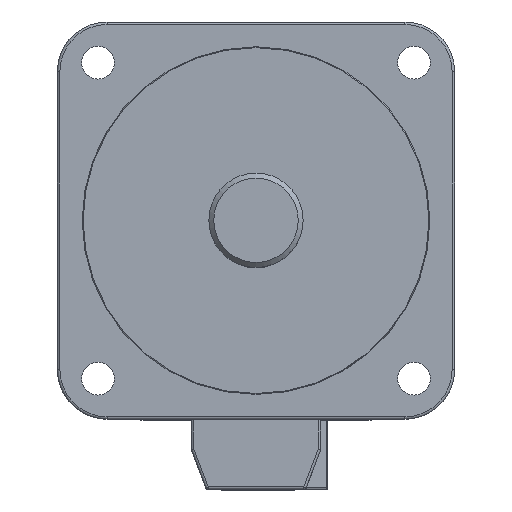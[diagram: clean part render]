
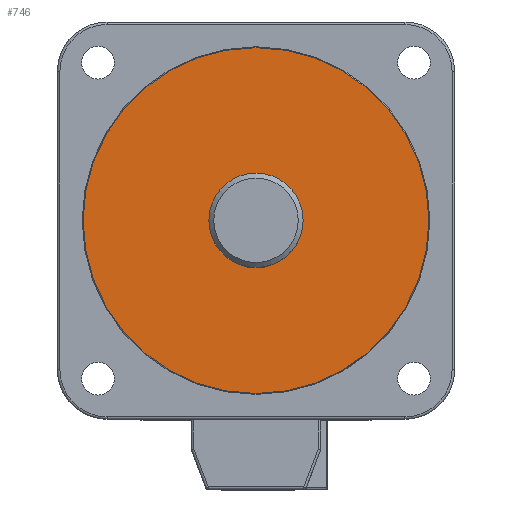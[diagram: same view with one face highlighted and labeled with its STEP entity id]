
A CAD part, top view. The second image highlights one B-rep face of the part: STEP entity #746.
In plain terms, the highlighted planar face has unit normal (0, 0, 1).
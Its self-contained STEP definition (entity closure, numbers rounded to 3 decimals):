
#746=ADVANCED_FACE('',(#1952,#1953),#1093,.F.);
#1093=PLANE('',#5588);
#1952=FACE_BOUND('',#1985,.T.);
#1953=FACE_BOUND('',#1986,.T.);
#1985=EDGE_LOOP('',(#2373));
#1986=EDGE_LOOP('',(#2374));
#2373=ORIENTED_EDGE('',*,*,#4429,.T.);
#2374=ORIENTED_EDGE('',*,*,#4425,.F.);
#3959=VERTEX_POINT('',#8178);
#3963=VERTEX_POINT('',#8189);
#4425=EDGE_CURVE('',#3959,#3959,#5208,.T.);
#4429=EDGE_CURVE('',#3963,#3963,#5212,.T.);
#5208=CIRCLE('',#5580,9.5);
#5212=CIRCLE('',#5587,34.818);
#5580=AXIS2_PLACEMENT_3D('',#8177,#6338,#6339);
#5587=AXIS2_PLACEMENT_3D('',#8188,#6352,#6353);
#5588=AXIS2_PLACEMENT_3D('',#8190,#6354,#6355);
#6338=DIRECTION('',(0.,0.,1.));
#6339=DIRECTION('',(1.,0.,0.));
#6352=DIRECTION('',(0.,0.,1.));
#6353=DIRECTION('',(-1.,0.,0.));
#6354=DIRECTION('',(0.,0.,-1.));
#6355=DIRECTION('',(-1.,0.,0.));
#8177=CARTESIAN_POINT('',(0.,0.,0.));
#8178=CARTESIAN_POINT('',(9.5,0.,0.));
#8188=CARTESIAN_POINT('',(0.,0.,0.));
#8189=CARTESIAN_POINT('',(-34.818,0.,0.));
#8190=CARTESIAN_POINT('',(0.,0.,0.));
